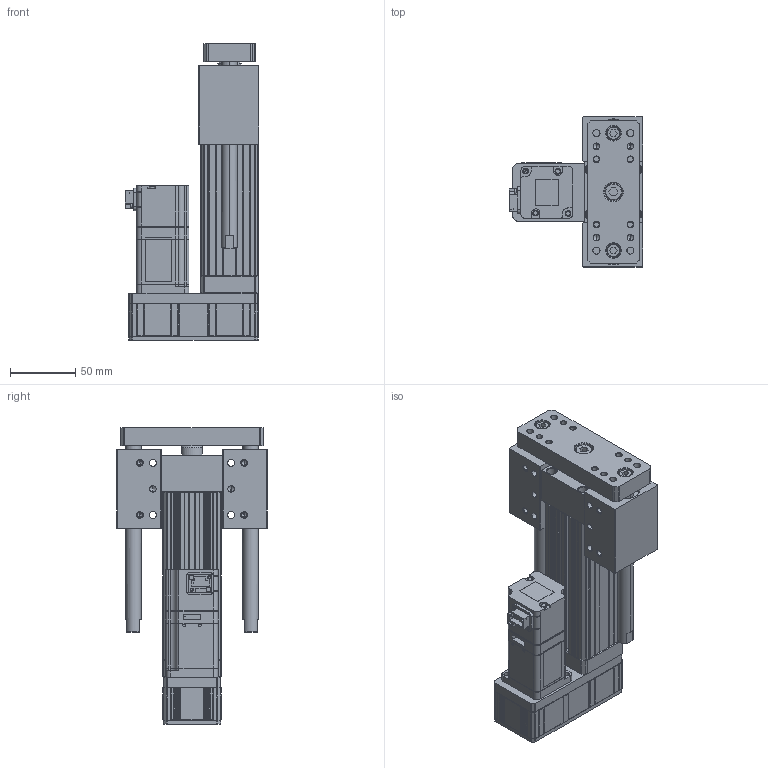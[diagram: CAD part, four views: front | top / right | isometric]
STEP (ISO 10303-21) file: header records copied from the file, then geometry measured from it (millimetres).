
FILE_DESCRIPTION (( 'STEP AP203' ), '1' );
FILE_NAME ('ANS045-HP050-05(10)-W10.STEP', '2019-02-14T03:02:35', ( 'user' ), ( '' ), 'SwSTEP 2.0', 'SolidWorks 2013', '' );
FILE_SCHEMA (( 'CONFIG_CONTROL_DESIGN' ));
Length unit declared in the file: millimetre
Products named in the file (4): ANS045 ROD ST050 H; SGMJV_01A_A21; ANS045-HP050-05(10)-W10; ANS045 HP050 VER2
Assembly tree (3 placements, depth 2):
  ANS045-HP050-05(10)-W10
    ANS045 HP050 VER2
    ANS045 ROD ST050 H
    SGMJV_01A_A21
Bounding box: 102.3 x 115 x 227.5 mm (x, y, z)
Volume: 678030.5 mm3; surface area: 182924.7 mm2
Topology: 3 solids, 11 shells, 1245 faces, 3210 edges, 2044 vertices
Faces by surface type: plane 670, cylinder 431, cone 142, bspline 2
Entity records: 38032 total; most frequent: CARTESIAN_POINT 7187, ORIENTED_EDGE 6380, DIRECTION 6326, EDGE_CURVE 3190, LINE 2140, VECTOR 2140, AXIS2_PLACEMENT_3D 2093, VERTEX_POINT 2044
